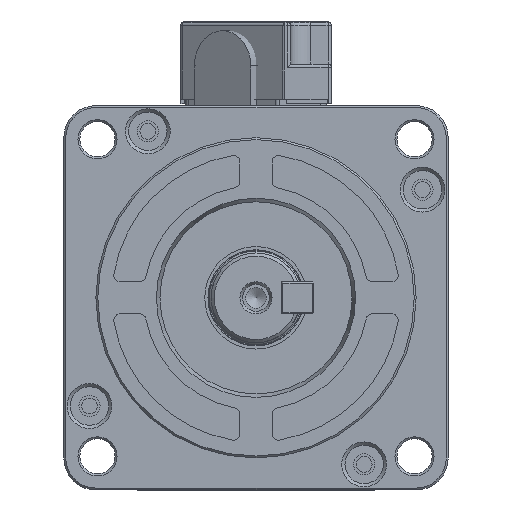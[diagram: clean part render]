
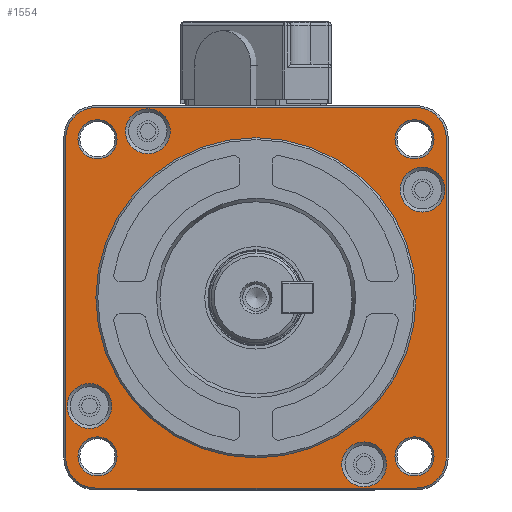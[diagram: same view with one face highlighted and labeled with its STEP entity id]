
A CAD part, left-side view. The second image highlights one B-rep face of the part: STEP entity #1554.
In plain terms, the highlighted planar face has unit normal (-1, 0, 0).
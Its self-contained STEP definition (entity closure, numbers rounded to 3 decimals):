
#1554 = ADVANCED_FACE( '', ( #3811, #3812, #3813, #3814, #3815, #3816, #3817, #3818, #3819, #3820 ), #3821, .T. );
#3811 = FACE_BOUND( '', #8281, .T. );
#3812 = FACE_BOUND( '', #8282, .T. );
#3813 = FACE_BOUND( '', #8283, .T. );
#3814 = FACE_BOUND( '', #8284, .T. );
#3815 = FACE_OUTER_BOUND( '', #8285, .T. );
#3816 = FACE_BOUND( '', #8286, .T. );
#3817 = FACE_BOUND( '', #8287, .T. );
#3818 = FACE_BOUND( '', #8288, .T. );
#3819 = FACE_BOUND( '', #8289, .T. );
#3820 = FACE_BOUND( '', #8290, .T. );
#3821 = PLANE( '', #8291 );
#8281 = EDGE_LOOP( '', ( #18624 ) );
#8282 = EDGE_LOOP( '', ( #18625 ) );
#8283 = EDGE_LOOP( '', ( #18626 ) );
#8284 = EDGE_LOOP( '', ( #18627 ) );
#8285 = EDGE_LOOP( '', ( #18628, #18629, #18630, #18631, #18632, #18633, #18634, #18635 ) );
#8286 = EDGE_LOOP( '', ( #18636 ) );
#8287 = EDGE_LOOP( '', ( #18637 ) );
#8288 = EDGE_LOOP( '', ( #18638 ) );
#8289 = EDGE_LOOP( '', ( #18639 ) );
#8290 = EDGE_LOOP( '', ( #18640 ) );
#8291 = AXIS2_PLACEMENT_3D( '', #18641, #18642, #18643 );
#18624 = ORIENTED_EDGE( '', *, *, #25989, .T. );
#18625 = ORIENTED_EDGE( '', *, *, #25990, .T. );
#18626 = ORIENTED_EDGE( '', *, *, #25852, .T. );
#18627 = ORIENTED_EDGE( '', *, *, #25991, .T. );
#18628 = ORIENTED_EDGE( '', *, *, #25992, .F. );
#18629 = ORIENTED_EDGE( '', *, *, #25993, .F. );
#18630 = ORIENTED_EDGE( '', *, *, #25275, .F. );
#18631 = ORIENTED_EDGE( '', *, *, #25994, .F. );
#18632 = ORIENTED_EDGE( '', *, *, #25995, .F. );
#18633 = ORIENTED_EDGE( '', *, *, #25996, .F. );
#18634 = ORIENTED_EDGE( '', *, *, #25803, .F. );
#18635 = ORIENTED_EDGE( '', *, *, #25997, .F. );
#18636 = ORIENTED_EDGE( '', *, *, #25998, .F. );
#18637 = ORIENTED_EDGE( '', *, *, #25999, .F. );
#18638 = ORIENTED_EDGE( '', *, *, #26000, .F. );
#18639 = ORIENTED_EDGE( '', *, *, #26001, .F. );
#18640 = ORIENTED_EDGE( '', *, *, #26002, .T. );
#18641 = CARTESIAN_POINT( '', ( 3., 0., 12.5 ) );
#18642 = DIRECTION( '', ( -1., 0., 0. ) );
#18643 = DIRECTION( '', ( 0., -1., 0. ) );
#25275 = EDGE_CURVE( '', #28475, #28478, #28479, .F. );
#25803 = EDGE_CURVE( '', #29399, #29401, #29402, .F. );
#25852 = EDGE_CURVE( '', #29482, #29482, #29483, .F. );
#25989 = EDGE_CURVE( '', #29719, #29719, #29720, .F. );
#25990 = EDGE_CURVE( '', #29721, #29721, #29722, .F. );
#25991 = EDGE_CURVE( '', #29723, #29723, #29724, .F. );
#25992 = EDGE_CURVE( '', #29725, #29726, #29727, .F. );
#25993 = EDGE_CURVE( '', #28478, #29725, #29728, .F. );
#25994 = EDGE_CURVE( '', #29729, #28475, #29730, .F. );
#25995 = EDGE_CURVE( '', #29731, #29729, #29732, .F. );
#25996 = EDGE_CURVE( '', #29401, #29731, #29733, .F. );
#25997 = EDGE_CURVE( '', #29726, #29399, #29734, .F. );
#25998 = EDGE_CURVE( '', #29735, #29735, #29736, .T. );
#25999 = EDGE_CURVE( '', #29737, #29737, #29738, .T. );
#26000 = EDGE_CURVE( '', #29739, #29739, #29740, .T. );
#26001 = EDGE_CURVE( '', #29741, #29741, #29742, .T. );
#26002 = EDGE_CURVE( '', #29743, #29743, #29744, .T. );
#28475 = VERTEX_POINT( '', #33079 );
#28478 = VERTEX_POINT( '', #33083 );
#28479 = CIRCLE( '', #33084, 4.7 );
#29399 = VERTEX_POINT( '', #35881 );
#29401 = VERTEX_POINT( '', #35884 );
#29402 = CIRCLE( '', #35885, 4.7 );
#29482 = VERTEX_POINT( '', #36113 );
#29483 = CIRCLE( '', #36114, 3.5 );
#29719 = VERTEX_POINT( '', #36725 );
#29720 = CIRCLE( '', #36726, 3.5 );
#29721 = VERTEX_POINT( '', #36727 );
#29722 = CIRCLE( '', #36728, 3.5 );
#29723 = VERTEX_POINT( '', #36729 );
#29724 = CIRCLE( '', #36730, 3.5 );
#29725 = VERTEX_POINT( '', #36731 );
#29726 = VERTEX_POINT( '', #36732 );
#29727 = CIRCLE( '', #36733, 4.7 );
#29728 = LINE( '', #36734, #36735 );
#29729 = VERTEX_POINT( '', #36736 );
#29730 = LINE( '', #36737, #36738 );
#29731 = VERTEX_POINT( '', #36739 );
#29732 = CIRCLE( '', #36740, 4.7 );
#29733 = LINE( '', #36741, #36742 );
#29734 = LINE( '', #36743, #36744 );
#29735 = VERTEX_POINT( '', #36745 );
#29736 = CIRCLE( '', #36746, 3.05 );
#29737 = VERTEX_POINT( '', #36747 );
#29738 = CIRCLE( '', #36748, 3.05 );
#29739 = VERTEX_POINT( '', #36749 );
#29740 = CIRCLE( '', #36750, 3.05 );
#29741 = VERTEX_POINT( '', #36751 );
#29742 = CIRCLE( '', #36752, 3.05 );
#29743 = VERTEX_POINT( '', #36753 );
#29744 = CIRCLE( '', #36754, 25. );
#33079 = CARTESIAN_POINT( '', ( 3., 25., -29.7 ) );
#33083 = CARTESIAN_POINT( '', ( 3., 29.7, -25. ) );
#33084 = AXIS2_PLACEMENT_3D( '', #47262, #47263, #47264 );
#35881 = CARTESIAN_POINT( '', ( 3., -25., 29.7 ) );
#35884 = CARTESIAN_POINT( '', ( 3., -29.7, 25. ) );
#35885 = AXIS2_PLACEMENT_3D( '', #47948, #47949, #47950 );
#36113 = CARTESIAN_POINT( '', ( 3., -29.499, 16.884 ) );
#36114 = AXIS2_PLACEMENT_3D( '', #48006, #48007, #48008 );
#36725 = CARTESIAN_POINT( '', ( 3., 22.499, -16.884 ) );
#36726 = AXIS2_PLACEMENT_3D( '', #48208, #48209, #48210 );
#36727 = CARTESIAN_POINT( '', ( 3., -20.384, -25.999 ) );
#36728 = AXIS2_PLACEMENT_3D( '', #48211, #48212, #48213 );
#36729 = CARTESIAN_POINT( '', ( 3., 13.384, 25.999 ) );
#36730 = AXIS2_PLACEMENT_3D( '', #48214, #48215, #48216 );
#36731 = CARTESIAN_POINT( '', ( 3., 29.7, 25. ) );
#36732 = CARTESIAN_POINT( '', ( 3., 25., 29.7 ) );
#36733 = AXIS2_PLACEMENT_3D( '', #48217, #48218, #48219 );
#36734 = CARTESIAN_POINT( '', ( 3., 29.7, 30. ) );
#36735 = VECTOR( '', #48220, 1000. );
#36736 = CARTESIAN_POINT( '', ( 3., -25., -29.7 ) );
#36737 = CARTESIAN_POINT( '', ( 3., 30., -29.7 ) );
#36738 = VECTOR( '', #48221, 1000. );
#36739 = CARTESIAN_POINT( '', ( 3., -29.7, -25. ) );
#36740 = AXIS2_PLACEMENT_3D( '', #48222, #48223, #48224 );
#36741 = CARTESIAN_POINT( '', ( 3., -29.7, -30. ) );
#36742 = VECTOR( '', #48225, 1000. );
#36743 = CARTESIAN_POINT( '', ( 3., -30., 29.7 ) );
#36744 = VECTOR( '', #48226, 1000. );
#36745 = CARTESIAN_POINT( '', ( 3., 21.699, -24.749 ) );
#36746 = AXIS2_PLACEMENT_3D( '', #48227, #48228, #48229 );
#36747 = CARTESIAN_POINT( '', ( 3., 21.699, 24.749 ) );
#36748 = AXIS2_PLACEMENT_3D( '', #48230, #48231, #48232 );
#36749 = CARTESIAN_POINT( '', ( 3., -27.799, 24.749 ) );
#36750 = AXIS2_PLACEMENT_3D( '', #48233, #48234, #48235 );
#36751 = CARTESIAN_POINT( '', ( 3., -27.799, -24.749 ) );
#36752 = AXIS2_PLACEMENT_3D( '', #48236, #48237, #48238 );
#36753 = CARTESIAN_POINT( '', ( 3., 0., 25. ) );
#36754 = AXIS2_PLACEMENT_3D( '', #48239, #48240, #48241 );
#47262 = CARTESIAN_POINT( '', ( 3., 25., -25. ) );
#47263 = DIRECTION( '', ( -1., 0., 0. ) );
#47264 = DIRECTION( '', ( 0., -1., 0. ) );
#47948 = CARTESIAN_POINT( '', ( 3., -25., 25. ) );
#47949 = DIRECTION( '', ( -1., 0., 0. ) );
#47950 = DIRECTION( '', ( 0., -1., 0. ) );
#48006 = CARTESIAN_POINT( '', ( 3., -25.999, 16.884 ) );
#48007 = DIRECTION( '', ( -1., 0., 0. ) );
#48008 = DIRECTION( '', ( 0., -1., 0. ) );
#48208 = CARTESIAN_POINT( '', ( 3., 25.999, -16.884 ) );
#48209 = DIRECTION( '', ( -1., 0., 0. ) );
#48210 = DIRECTION( '', ( 0., -1., 0. ) );
#48211 = CARTESIAN_POINT( '', ( 3., -16.884, -25.999 ) );
#48212 = DIRECTION( '', ( -1., 0., 0. ) );
#48213 = DIRECTION( '', ( 0., -1., 0. ) );
#48214 = CARTESIAN_POINT( '', ( 3., 16.884, 25.999 ) );
#48215 = DIRECTION( '', ( -1., 0., 0. ) );
#48216 = DIRECTION( '', ( 0., -1., 0. ) );
#48217 = CARTESIAN_POINT( '', ( 3., 25., 25. ) );
#48218 = DIRECTION( '', ( -1., 0., 0. ) );
#48219 = DIRECTION( '', ( 0., -1., 0. ) );
#48220 = DIRECTION( '', ( 0., 0., -1. ) );
#48221 = DIRECTION( '', ( 0., -1., 0. ) );
#48222 = CARTESIAN_POINT( '', ( 3., -25., -25. ) );
#48223 = DIRECTION( '', ( -1., 0., 0. ) );
#48224 = DIRECTION( '', ( 0., -1., 0. ) );
#48225 = DIRECTION( '', ( 0., 0., 1. ) );
#48226 = DIRECTION( '', ( 0., 1., 0. ) );
#48227 = CARTESIAN_POINT( '', ( 3., 24.749, -24.749 ) );
#48228 = DIRECTION( '', ( -1., 0., 0. ) );
#48229 = DIRECTION( '', ( 0., -1., 0. ) );
#48230 = CARTESIAN_POINT( '', ( 3., 24.749, 24.749 ) );
#48231 = DIRECTION( '', ( -1., 0., 0. ) );
#48232 = DIRECTION( '', ( 0., -1., 0. ) );
#48233 = CARTESIAN_POINT( '', ( 3., -24.749, 24.749 ) );
#48234 = DIRECTION( '', ( -1., 0., 0. ) );
#48235 = DIRECTION( '', ( 0., -1., 0. ) );
#48236 = CARTESIAN_POINT( '', ( 3., -24.749, -24.749 ) );
#48237 = DIRECTION( '', ( -1., 0., 0. ) );
#48238 = DIRECTION( '', ( 0., -1., 0. ) );
#48239 = CARTESIAN_POINT( '', ( 3., 0., 0. ) );
#48240 = DIRECTION( '', ( 1., 0., 0. ) );
#48241 = DIRECTION( '', ( 0., 0., 1. ) );
